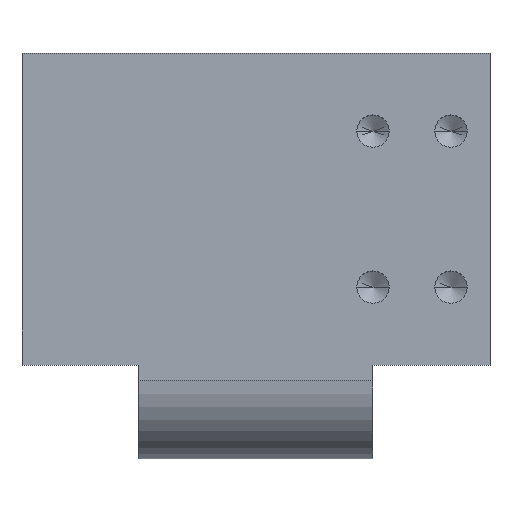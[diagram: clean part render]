
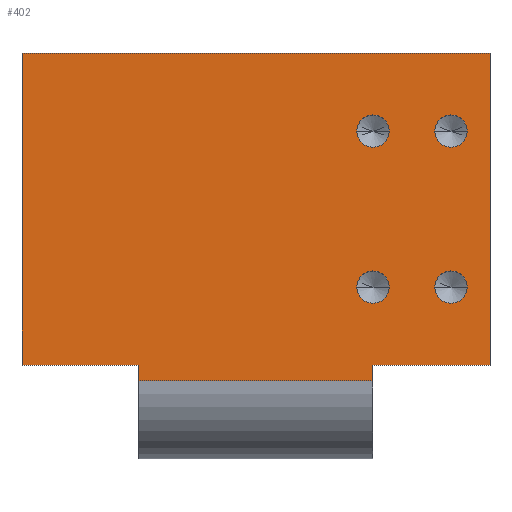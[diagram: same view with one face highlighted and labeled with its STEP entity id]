
A CAD part, top view. The second image highlights one B-rep face of the part: STEP entity #402.
In plain terms, the highlighted planar face has unit normal (0, 0, 1).
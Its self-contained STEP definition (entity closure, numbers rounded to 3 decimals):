
#12 = DIRECTION ( 'NONE',  ( 0., -1., 0. ) ) ;
#33 = ORIENTED_EDGE ( 'NONE', *, *, #712, .F. ) ;
#80 = ORIENTED_EDGE ( 'NONE', *, *, #1020, .F. ) ;
#87 = EDGE_LOOP ( 'NONE', ( #80, #1997 ) ) ;
#98 = DIRECTION ( 'NONE',  ( 0., 0., 1. ) ) ;
#125 = CARTESIAN_POINT ( 'NONE',  ( 0., -20., 0. ) ) ;
#150 = DIRECTION ( 'NONE',  ( 0., 0., -1. ) ) ;
#154 = EDGE_CURVE ( 'NONE', #2036, #799, #1052, .T. ) ;
#176 = CARTESIAN_POINT ( 'NONE',  ( 47.067, -10., 0. ) ) ;
#184 = EDGE_CURVE ( 'NONE', #1756, #1890, #1319, .T. ) ;
#197 = CARTESIAN_POINT ( 'NONE',  ( 45., -22., 0. ) ) ;
#224 = AXIS2_PLACEMENT_3D ( 'NONE', #1198, #98, #458 ) ;
#230 = LINE ( 'NONE', #1823, #483 ) ;
#273 = EDGE_CURVE ( 'NONE', #944, #738, #906, .T. ) ;
#284 = ORIENTED_EDGE ( 'NONE', *, *, #184, .F. ) ;
#287 = FACE_BOUND ( 'NONE', #520, .T. ) ;
#302 = CARTESIAN_POINT ( 'NONE',  ( 60., -20., 0. ) ) ;
#370 = VERTEX_POINT ( 'NONE', #493 ) ;
#389 = DIRECTION ( 'NONE',  ( 1., 0., 0. ) ) ;
#402 = ADVANCED_FACE ( 'NONE', ( #2076, #287, #540, #705, #1920 ), #1760, .F. ) ;
#408 = CARTESIAN_POINT ( 'NONE',  ( 15., -32., 0. ) ) ;
#411 = VERTEX_POINT ( 'NONE', #1773 ) ;
#437 = AXIS2_PLACEMENT_3D ( 'NONE', #1861, #1654, #2000 ) ;
#438 = DIRECTION ( 'NONE',  ( 1., 0., 0. ) ) ;
#450 = DIRECTION ( 'NONE',  ( 1., 0., 0. ) ) ;
#452 = ORIENTED_EDGE ( 'NONE', *, *, #1912, .F. ) ;
#454 = CIRCLE ( 'NONE', #437, 2.067 ) ;
#458 = DIRECTION ( 'NONE',  ( 1., 0., 0. ) ) ;
#483 = VECTOR ( 'NONE', #2311, 1000. ) ;
#493 = CARTESIAN_POINT ( 'NONE',  ( 42.933, -10., 0. ) ) ;
#509 = AXIS2_PLACEMENT_3D ( 'NONE', #1736, #784, #438 ) ;
#513 = ORIENTED_EDGE ( 'NONE', *, *, #1148, .F. ) ;
#516 = AXIS2_PLACEMENT_3D ( 'NONE', #860, #1002, #1563 ) ;
#520 = EDGE_LOOP ( 'NONE', ( #1693, #2208 ) ) ;
#521 = DIRECTION ( 'NONE',  ( 0., -1., 0. ) ) ;
#540 = FACE_BOUND ( 'NONE', #673, .T. ) ;
#593 = VECTOR ( 'NONE', #12, 1000. ) ;
#618 = ORIENTED_EDGE ( 'NONE', *, *, #154, .F. ) ;
#625 = ORIENTED_EDGE ( 'NONE', *, *, #1984, .F. ) ;
#636 = CARTESIAN_POINT ( 'NONE',  ( 57.067, 10., 0. ) ) ;
#673 = EDGE_LOOP ( 'NONE', ( #972, #284 ) ) ;
#702 = LINE ( 'NONE', #2123, #593 ) ;
#705 = FACE_BOUND ( 'NONE', #87, .T. ) ;
#712 = EDGE_CURVE ( 'NONE', #411, #2237, #1884, .T. ) ;
#738 = VERTEX_POINT ( 'NONE', #1118 ) ;
#763 = VECTOR ( 'NONE', #2156, 1000. ) ;
#768 = AXIS2_PLACEMENT_3D ( 'NONE', #964, #1670, #773 ) ;
#773 = DIRECTION ( 'NONE',  ( 1., 0., 0. ) ) ;
#784 = DIRECTION ( 'NONE',  ( 0., 0., 1. ) ) ;
#794 = ORIENTED_EDGE ( 'NONE', *, *, #824, .F. ) ;
#799 = VERTEX_POINT ( 'NONE', #1520 ) ;
#824 = EDGE_CURVE ( 'NONE', #2322, #1176, #2068, .T. ) ;
#860 = CARTESIAN_POINT ( 'NONE',  ( 45., -10., 0. ) ) ;
#866 = CARTESIAN_POINT ( 'NONE',  ( 0., 20., 0. ) ) ;
#872 = CARTESIAN_POINT ( 'NONE',  ( 45., -20., 0. ) ) ;
#906 = CIRCLE ( 'NONE', #224, 2.067 ) ;
#908 = ORIENTED_EDGE ( 'NONE', *, *, #1447, .F. ) ;
#910 = LINE ( 'NONE', #197, #1972 ) ;
#937 = EDGE_CURVE ( 'NONE', #2232, #1999, #910, .T. ) ;
#939 = CIRCLE ( 'NONE', #1062, 2.067 ) ;
#944 = VERTEX_POINT ( 'NONE', #1144 ) ;
#964 = CARTESIAN_POINT ( 'NONE',  ( 55., 10., 0. ) ) ;
#972 = ORIENTED_EDGE ( 'NONE', *, *, #1795, .F. ) ;
#1002 = DIRECTION ( 'NONE',  ( 0., 0., 1. ) ) ;
#1020 = EDGE_CURVE ( 'NONE', #2073, #370, #1335, .T. ) ;
#1041 = VECTOR ( 'NONE', #1646, 1000. ) ;
#1052 = LINE ( 'NONE', #866, #1416 ) ;
#1057 = DIRECTION ( 'NONE',  ( -1., 0., 0. ) ) ;
#1062 = AXIS2_PLACEMENT_3D ( 'NONE', #1246, #1071, #450 ) ;
#1071 = DIRECTION ( 'NONE',  ( 0., 0., 1. ) ) ;
#1118 = CARTESIAN_POINT ( 'NONE',  ( 57.067, -10., 0. ) ) ;
#1133 = DIRECTION ( 'NONE',  ( 0., 1., 0. ) ) ;
#1144 = CARTESIAN_POINT ( 'NONE',  ( 52.933, -10., 0. ) ) ;
#1148 = EDGE_CURVE ( 'NONE', #799, #1413, #1282, .T. ) ;
#1156 = CIRCLE ( 'NONE', #1318, 2.067 ) ;
#1176 = VERTEX_POINT ( 'NONE', #872 ) ;
#1198 = CARTESIAN_POINT ( 'NONE',  ( 55., -10., 0. ) ) ;
#1206 = CARTESIAN_POINT ( 'NONE',  ( 15., -22., 0. ) ) ;
#1216 = ORIENTED_EDGE ( 'NONE', *, *, #937, .T. ) ;
#1243 = CARTESIAN_POINT ( 'NONE',  ( 60., -20., 0. ) ) ;
#1246 = CARTESIAN_POINT ( 'NONE',  ( 55., -10., 0. ) ) ;
#1252 = CARTESIAN_POINT ( 'NONE',  ( 60., -20., 0. ) ) ;
#1253 = EDGE_CURVE ( 'NONE', #738, #944, #939, .T. ) ;
#1282 = LINE ( 'NONE', #1460, #1041 ) ;
#1318 = AXIS2_PLACEMENT_3D ( 'NONE', #2118, #1672, #389 ) ;
#1319 = CIRCLE ( 'NONE', #509, 2.067 ) ;
#1335 = CIRCLE ( 'NONE', #2088, 2.067 ) ;
#1413 = VERTEX_POINT ( 'NONE', #1766 ) ;
#1416 = VECTOR ( 'NONE', #1133, 1000. ) ;
#1447 = EDGE_CURVE ( 'NONE', #2237, #411, #1156, .T. ) ;
#1460 = CARTESIAN_POINT ( 'NONE',  ( 15., 20., 0. ) ) ;
#1496 = EDGE_LOOP ( 'NONE', ( #908, #33 ) ) ;
#1506 = DIRECTION ( 'NONE',  ( 1., 0., 0. ) ) ;
#1520 = CARTESIAN_POINT ( 'NONE',  ( 0., 20., 0. ) ) ;
#1536 = CARTESIAN_POINT ( 'NONE',  ( 42.933, 10., 0. ) ) ;
#1556 = DIRECTION ( 'NONE',  ( -1., 0., 0. ) ) ;
#1563 = DIRECTION ( 'NONE',  ( 1., 0., 0. ) ) ;
#1575 = DIRECTION ( 'NONE',  ( 1., 0., 0. ) ) ;
#1582 = ORIENTED_EDGE ( 'NONE', *, *, #1862, .F. ) ;
#1619 = EDGE_CURVE ( 'NONE', #2036, #1650, #230, .T. ) ;
#1634 = CARTESIAN_POINT ( 'NONE',  ( 45., -10., 0. ) ) ;
#1646 = DIRECTION ( 'NONE',  ( 1., 0., 0. ) ) ;
#1650 = VERTEX_POINT ( 'NONE', #1728 ) ;
#1654 = DIRECTION ( 'NONE',  ( 0., 0., 1. ) ) ;
#1670 = DIRECTION ( 'NONE',  ( 0., 0., 1. ) ) ;
#1672 = DIRECTION ( 'NONE',  ( 0., 0., 1. ) ) ;
#1686 = CIRCLE ( 'NONE', #516, 2.067 ) ;
#1693 = ORIENTED_EDGE ( 'NONE', *, *, #1253, .F. ) ;
#1719 = VECTOR ( 'NONE', #521, 1000. ) ;
#1728 = CARTESIAN_POINT ( 'NONE',  ( 15., -20., 0. ) ) ;
#1736 = CARTESIAN_POINT ( 'NONE',  ( 45., 10., 0. ) ) ;
#1756 = VERTEX_POINT ( 'NONE', #1536 ) ;
#1760 = PLANE ( 'NONE',  #2249 ) ;
#1761 = ORIENTED_EDGE ( 'NONE', *, *, #1619, .T. ) ;
#1766 = CARTESIAN_POINT ( 'NONE',  ( 60., 20., 0. ) ) ;
#1773 = CARTESIAN_POINT ( 'NONE',  ( 52.933, 10., 0. ) ) ;
#1795 = EDGE_CURVE ( 'NONE', #1890, #1756, #454, .T. ) ;
#1823 = CARTESIAN_POINT ( 'NONE',  ( 0., -20., 0. ) ) ;
#1861 = CARTESIAN_POINT ( 'NONE',  ( 45., 10., 0. ) ) ;
#1862 = EDGE_CURVE ( 'NONE', #1413, #2322, #2190, .T. ) ;
#1884 = CIRCLE ( 'NONE', #768, 2.067 ) ;
#1890 = VERTEX_POINT ( 'NONE', #2293 ) ;
#1912 = EDGE_CURVE ( 'NONE', #2232, #1650, #2134, .T. ) ;
#1920 = FACE_OUTER_BOUND ( 'NONE', #2289, .T. ) ;
#1972 = VECTOR ( 'NONE', #1506, 1000. ) ;
#1984 = EDGE_CURVE ( 'NONE', #1176, #1999, #702, .T. ) ;
#1997 = ORIENTED_EDGE ( 'NONE', *, *, #2091, .F. ) ;
#1999 = VERTEX_POINT ( 'NONE', #2054 ) ;
#2000 = DIRECTION ( 'NONE',  ( 1., 0., 0. ) ) ;
#2026 = VECTOR ( 'NONE', #1556, 1000. ) ;
#2036 = VERTEX_POINT ( 'NONE', #125 ) ;
#2054 = CARTESIAN_POINT ( 'NONE',  ( 45., -22., 0. ) ) ;
#2068 = LINE ( 'NONE', #302, #2026 ) ;
#2073 = VERTEX_POINT ( 'NONE', #176 ) ;
#2076 = FACE_BOUND ( 'NONE', #1496, .T. ) ;
#2088 = AXIS2_PLACEMENT_3D ( 'NONE', #1634, #2297, #1575 ) ;
#2091 = EDGE_CURVE ( 'NONE', #370, #2073, #1686, .T. ) ;
#2117 = CARTESIAN_POINT ( 'NONE',  ( 0., 0., 0. ) ) ;
#2118 = CARTESIAN_POINT ( 'NONE',  ( 55., 10., 0. ) ) ;
#2123 = CARTESIAN_POINT ( 'NONE',  ( 45., 20., 0. ) ) ;
#2134 = LINE ( 'NONE', #408, #763 ) ;
#2156 = DIRECTION ( 'NONE',  ( 0., 1., 0. ) ) ;
#2190 = LINE ( 'NONE', #1243, #1719 ) ;
#2208 = ORIENTED_EDGE ( 'NONE', *, *, #273, .F. ) ;
#2232 = VERTEX_POINT ( 'NONE', #1206 ) ;
#2237 = VERTEX_POINT ( 'NONE', #636 ) ;
#2249 = AXIS2_PLACEMENT_3D ( 'NONE', #2117, #150, #1057 ) ;
#2289 = EDGE_LOOP ( 'NONE', ( #452, #1216, #625, #794, #1582, #513, #618, #1761 ) ) ;
#2293 = CARTESIAN_POINT ( 'NONE',  ( 47.067, 10., 0. ) ) ;
#2297 = DIRECTION ( 'NONE',  ( 0., 0., 1. ) ) ;
#2311 = DIRECTION ( 'NONE',  ( 1., 0., 0. ) ) ;
#2322 = VERTEX_POINT ( 'NONE', #1252 ) ;
